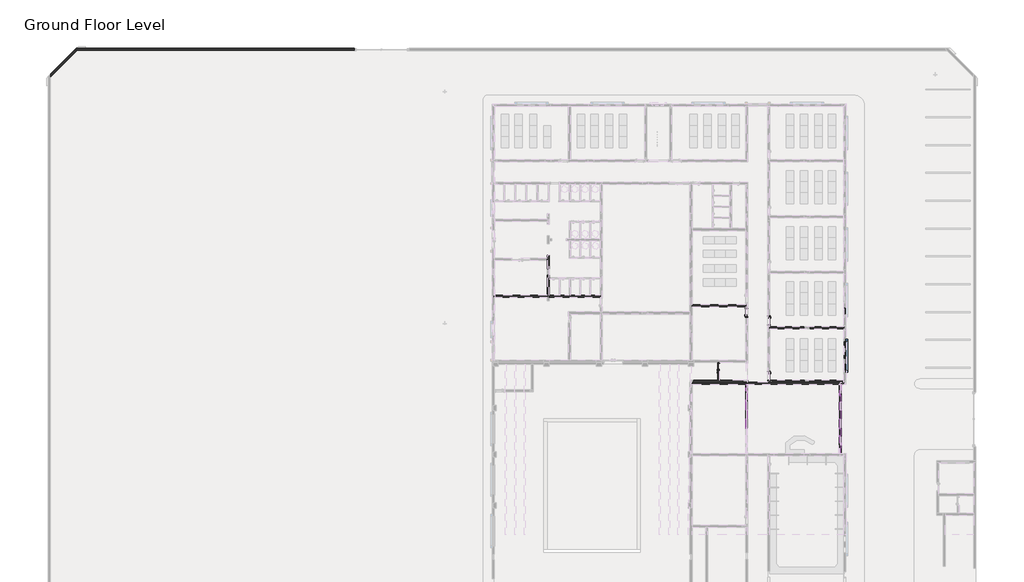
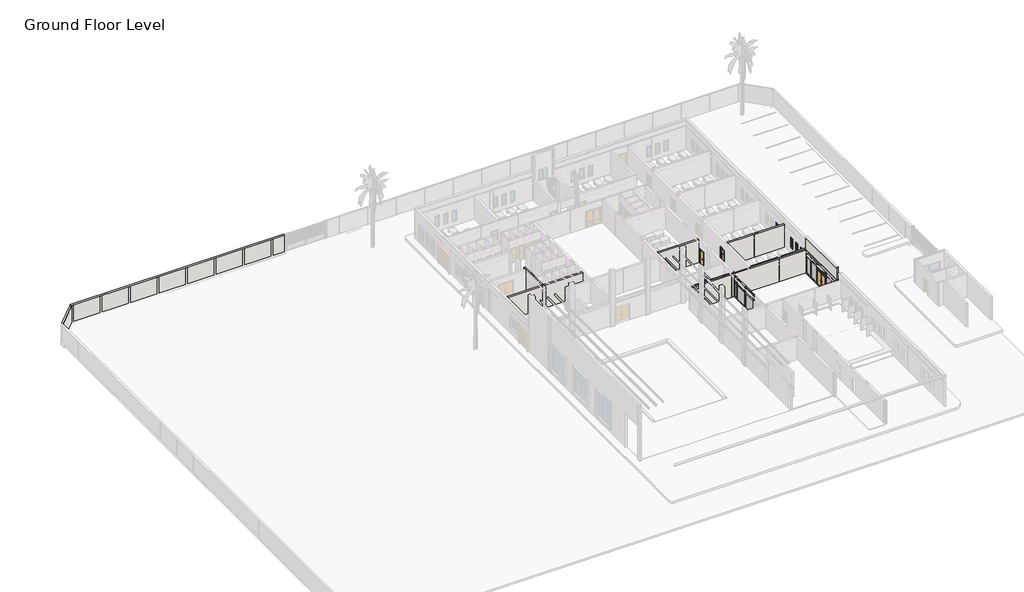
# One storey, part 6 of 23: 44 members, 16 plates, 11 walls, 5 doors, 5 windows.
"""IFC4 building model written with IfcOpenShell, lengths in millimetres."""

from ifc_helpers import new_model, si_unit, frame, origin, place, context, project, spatial, polyline, outline, extrude, faceted_brep, transform, mapped, element, save
from components import int_double_flush_nz_1800_x_2500_136b044d, int_single_flush_nz_900_x_2100_021ef152, m_curtain_wall_dbl_glass_m_curtain_wall_dbl_glass_e02fd95a, rectangular_mullion_50_x_150mm_c0aabc74, rectangular_mullion_50_x_150mm_79b53f25, rectangular_mullion_50_x_150mm_c9e8804c, rectangular_mullion_50_x_150mm_f0154c62, rectangular_mullion_50_x_150mm_3a148f0f, rectangular_mullion_50_x_150mm_5a145be0, rectangular_mullion_50_x_150mm_aa47fe12, rectangular_mullion_50_x_150mm_de483d99, rectangular_mullion_50_x_150mm_ab54daf0, rectangular_mullion_50_x_150mm_3a321350, rectangular_mullion_50_x_150mm_7a83b0e5, rectangular_mullion_50_x_150mm_9cef7b28, rectangular_mullion_50_x_150mm_4d58d98e, rectangular_mullion_50_x_150mm_792551fd, rectangular_mullion_50_x_150mm_23485ade, rectangular_mullion_50_x_150mm_35d6a770, rectangular_mullion_50_x_150mm_3ddb3363, rectangular_mullion_50_x_150mm_64d38db8, rectangular_mullion_50_x_150mm_68b3818a, system_panel_glazed_d0e91aec, system_panel_glazed_3409cc1e, system_panel_glazed_c55c287d, system_panel_glazed_65c4ff5a, system_panel_glazed_45c84e56, system_panel_glazed_78f5b605, system_panel_glazed_9a752446, system_panel_glazed_ebf72a38, system_panel_glazed_8493d7a6, system_panel_glazed_0c7632f4, system_panel_glazed_ec99e3cf, system_panel_glazed_dac4f711, window_batten_type_1_65f01d97, window_single_shutter_w3_b236610e

model = new_model("IFC4")

# Units and contexts
model_context = context("Model", 3, world=origin())
ifc_project = project(units=[si_unit("LENGTHUNIT", "METRE", prefix="MILLI")], contexts=[model_context])

# Site, building, storey
site = spatial("IfcSite", under=ifc_project)
building = spatial("IfcBuilding", under=site)
storey = spatial("IfcBuildingStorey", under=building, Name="Ground Floor Level", Elevation=900.0)

# Doors
placement = place(None, origin())
int_double_flush_nz_1800_x_2500_shape = int_double_flush_nz_1800_x_2500_136b044d(model_context)
element("IfcDoor", 1, ObjectType="Int Double-Flush (NZ) : 1800 x 2500", at=placement, inside=storey, context=model_context, shape_type="MappedRepresentation", body=[
    mapped(int_double_flush_nz_1800_x_2500_shape, transform((2362.7672395, -7149.7846466, 900.0), x_axis=(0.0, 1.0, 0.0), y_axis=(-1.0, 0.0, 0.0), z_axis=(0.0, 0.0, 1.0))),
])
int_single_flush_nz_900_x_2100_shape = int_single_flush_nz_900_x_2100_021ef152(model_context)
element("IfcDoor", 2, ObjectType="Int Single-Flush (NZ) : 900 x 2100", at=placement, inside=storey, context=model_context, shape_type="MappedRepresentation", body=[
    mapped(int_single_flush_nz_900_x_2100_shape, transform((7752.7672395, -1750.7846466, 1000.0), x_axis=(0.0, -1.0, 0.0), y_axis=(1.0, 0.0, 0.0), z_axis=(0.0, 0.0, 1.0))),
])
element("IfcDoor", 3, ObjectType="Int Single-Flush (NZ) : 900 x 2100", at=placement, inside=storey, context=model_context, shape_type="MappedRepresentation", body=[
    mapped(int_single_flush_nz_900_x_2100_shape, transform((7752.7672395, -7730.7846466, 1000.0), x_axis=(0.0, -1.0, 0.0), y_axis=(1.0, 0.0, 0.0), z_axis=(0.0, 0.0, 1.0))),
])
element("IfcDoor", 4, ObjectType="Int Single-Flush (NZ) : 900 x 2100", at=placement, inside=storey, context=model_context, shape_type="MappedRepresentation", body=[
    mapped(int_single_flush_nz_900_x_2100_shape, transform((5352.7672395, -758.7846466, 1000.0), x_axis=(0.0, 1.0, 0.0), y_axis=(-1.0, 0.0, 0.0), z_axis=(0.0, 0.0, 1.0))),
])
m_curtain_wall_dbl_glass_m_curtain_wall_dbl_glass_shape = m_curtain_wall_dbl_glass_m_curtain_wall_dbl_glass_e02fd95a(model_context)
element("IfcDoor", 5, ObjectType="M_Curtain Wall Dbl Glass : M_Curtain Wall Dbl Glass", at=placement, inside=storey, context=model_context, shape_type="MappedRepresentation", body=[
    mapped(m_curtain_wall_dbl_glass_m_curtain_wall_dbl_glass_shape, transform((15452.7672395, -12279.7846466, 1050.0), x_axis=(0.0, -1.0, 0.0), y_axis=(1.0, 0.0, 0.0), z_axis=(0.0, 0.0, 1.0))),
])

# Members
rectangular_mullion_50_x_150mm_shape = rectangular_mullion_50_x_150mm_c0aabc74(model_context)
element("IfcMember", 6, ObjectType="Rectangular Mullion : 50 x 150mm", at=placement, inside=storey, context=model_context, shape_type="MappedRepresentation", body=[
    mapped(rectangular_mullion_50_x_150mm_shape, transform((5352.7672395, -8614.7846466, 1000.0), x_axis=(0.0, 0.0, -1.0), y_axis=(-1.0, 0.0, 0.0), z_axis=(0.0, 1.0, 0.0))),
])
rectangular_mullion_50_x_150mm_2_shape = rectangular_mullion_50_x_150mm_79b53f25(model_context)
element("IfcMember", 7, ObjectType="Rectangular Mullion : 50 x 150mm", at=placement, inside=storey, context=model_context, shape_type="MappedRepresentation", body=[
    mapped(rectangular_mullion_50_x_150mm_2_shape, transform((5352.7672395, -11254.7846466, 1000.0), x_axis=(0.0, -1.0, 0.0), y_axis=(-1.0, 0.0, 0.0), z_axis=(0.0, 0.0, -1.0))),
])
element("IfcMember", 8, ObjectType="Rectangular Mullion : 50 x 150mm", at=placement, inside=storey, context=model_context, shape_type="MappedRepresentation", body=[
    mapped(rectangular_mullion_50_x_150mm_2_shape, transform((5352.7672395, -9204.7846466, 1000.0), x_axis=(0.0, -1.0, 0.0), y_axis=(-1.0, 0.0, 0.0), z_axis=(0.0, 0.0, -1.0))),
])
rectangular_mullion_50_x_150mm_3_shape = rectangular_mullion_50_x_150mm_c9e8804c(model_context)
element("IfcMember", 9, ObjectType="Rectangular Mullion : 50 x 150mm", at=placement, inside=storey, context=model_context, shape_type="MappedRepresentation", body=[
    mapped(rectangular_mullion_50_x_150mm_3_shape, transform((5352.7672395, -9179.7846466, 3250.0), x_axis=(0.0, 0.0, 1.0), y_axis=(-1.0, 0.0, 0.0), z_axis=(0.0, -1.0, 0.0))),
])
rectangular_mullion_50_x_150mm_4_shape = rectangular_mullion_50_x_150mm_f0154c62(model_context)
element("IfcMember", 10, ObjectType="Rectangular Mullion : 50 x 150mm", at=placement, inside=storey, context=model_context, shape_type="MappedRepresentation", body=[
    mapped(rectangular_mullion_50_x_150mm_4_shape, transform((15452.7672395, -14779.7846466, 3550.0), x_axis=(0.0, 0.0, 1.0), y_axis=(-1.0, 0.0, 0.0), z_axis=(0.0, -1.0, 0.0))),
])
element("IfcMember", 11, ObjectType="Rectangular Mullion : 50 x 150mm", at=placement, inside=storey, context=model_context, shape_type="MappedRepresentation", body=[
    mapped(rectangular_mullion_50_x_150mm_4_shape, transform((15452.7672395, -11229.7846466, 3550.0), x_axis=(0.0, 0.0, 1.0), y_axis=(-1.0, 0.0, 0.0), z_axis=(0.0, -1.0, 0.0))),
])
rectangular_mullion_50_x_150mm_5_shape = rectangular_mullion_50_x_150mm_3a148f0f(model_context)
element("IfcMember", 12, ObjectType="Rectangular Mullion : 50 x 150mm", at=placement, inside=storey, context=model_context, shape_type="MappedRepresentation", body=[
    mapped(rectangular_mullion_50_x_150mm_5_shape, transform((5352.7672395, -11229.7846466, 3250.0), x_axis=(0.0, 0.0, 1.0), y_axis=(-1.0, 0.0, 0.0), z_axis=(0.0, -1.0, 0.0))),
])
element("IfcMember", 13, ObjectType="Rectangular Mullion : 50 x 150mm", at=placement, inside=storey, context=model_context, shape_type="MappedRepresentation", body=[
    mapped(rectangular_mullion_50_x_150mm_5_shape, transform((15452.7672395, -13279.7846466, 3200.0), x_axis=(0.0, 0.0, 1.0), y_axis=(-1.0, 0.0, 0.0), z_axis=(0.0, -1.0, 0.0))),
])
element("IfcMember", 14, ObjectType="Rectangular Mullion : 50 x 150mm", at=placement, inside=storey, context=model_context, shape_type="MappedRepresentation", body=[
    mapped(rectangular_mullion_50_x_150mm_5_shape, transform((15452.7672395, -13279.7846466, 3550.0), x_axis=(0.0, 0.0, 1.0), y_axis=(-1.0, 0.0, 0.0), z_axis=(0.0, -1.0, 0.0))),
])
rectangular_mullion_50_x_150mm_6_shape = rectangular_mullion_50_x_150mm_5a145be0(model_context)
element("IfcMember", 15, ObjectType="Rectangular Mullion : 50 x 150mm", at=placement, inside=storey, context=model_context, shape_type="MappedRepresentation", body=[
    mapped(rectangular_mullion_50_x_150mm_6_shape, transform((15452.7672395, -13329.7846466, 1000.0), x_axis=(0.0, 0.0, -1.0), y_axis=(-1.0, 0.0, 0.0), z_axis=(0.0, 1.0, 0.0))),
])
element("IfcMember", 16, ObjectType="Rectangular Mullion : 50 x 150mm", at=placement, inside=storey, context=model_context, shape_type="MappedRepresentation", body=[
    mapped(rectangular_mullion_50_x_150mm_6_shape, transform((15452.7672395, -9779.7846466, 1000.0), x_axis=(0.0, 0.0, -1.0), y_axis=(-1.0, 0.0, 0.0), z_axis=(0.0, 1.0, 0.0))),
])
rectangular_mullion_50_x_150mm_7_shape = rectangular_mullion_50_x_150mm_aa47fe12(model_context)
element("IfcMember", 17, ObjectType="Rectangular Mullion : 50 x 150mm", at=placement, inside=storey, context=model_context, shape_type="MappedRepresentation", body=[
    mapped(rectangular_mullion_50_x_150mm_7_shape, transform((5352.7672395, -11279.7846466, 1000.0), x_axis=(0.0, 0.0, -1.0), y_axis=(-1.0, 0.0, 0.0), z_axis=(0.0, 1.0, 0.0))),
])
element("IfcMember", 18, ObjectType="Rectangular Mullion : 50 x 150mm", at=placement, inside=storey, context=model_context, shape_type="MappedRepresentation", body=[
    mapped(rectangular_mullion_50_x_150mm_7_shape, transform((5352.7672395, -9229.7846466, 1000.0), x_axis=(0.0, 0.0, -1.0), y_axis=(-1.0, 0.0, 0.0), z_axis=(0.0, 1.0, 0.0))),
])
element("IfcMember", 19, ObjectType="Rectangular Mullion : 50 x 150mm", at=placement, inside=storey, context=model_context, shape_type="MappedRepresentation", body=[
    mapped(rectangular_mullion_50_x_150mm_7_shape, transform((15452.7672395, -11279.7846466, 1000.0), x_axis=(0.0, 0.0, -1.0), y_axis=(-1.0, 0.0, 0.0), z_axis=(0.0, 1.0, 0.0))),
])
element("IfcMember", 20, ObjectType="Rectangular Mullion : 50 x 150mm", at=placement, inside=storey, context=model_context, shape_type="MappedRepresentation", body=[
    mapped(rectangular_mullion_50_x_150mm_6_shape, transform((15452.7672395, -14779.7846466, 4150.0), x_axis=(0.0, 0.0, 1.0), y_axis=(-1.0, 0.0, 0.0), z_axis=(0.0, -1.0, 0.0))),
])
element("IfcMember", 21, ObjectType="Rectangular Mullion : 50 x 150mm", at=placement, inside=storey, context=model_context, shape_type="MappedRepresentation", body=[
    mapped(rectangular_mullion_50_x_150mm_6_shape, transform((15452.7672395, -11229.7846466, 4150.0), x_axis=(0.0, 0.0, 1.0), y_axis=(-1.0, 0.0, 0.0), z_axis=(0.0, -1.0, 0.0))),
])
element("IfcMember", 22, ObjectType="Rectangular Mullion : 50 x 150mm", at=placement, inside=storey, context=model_context, shape_type="MappedRepresentation", body=[
    mapped(rectangular_mullion_50_x_150mm_7_shape, transform((5352.7672395, -13279.7846466, 4150.0), x_axis=(0.0, 0.0, 1.0), y_axis=(-1.0, 0.0, 0.0), z_axis=(0.0, -1.0, 0.0))),
])
element("IfcMember", 23, ObjectType="Rectangular Mullion : 50 x 150mm", at=placement, inside=storey, context=model_context, shape_type="MappedRepresentation", body=[
    mapped(rectangular_mullion_50_x_150mm_7_shape, transform((5352.7672395, -11229.7846466, 4150.0), x_axis=(0.0, 0.0, 1.0), y_axis=(-1.0, 0.0, 0.0), z_axis=(0.0, -1.0, 0.0))),
])
element("IfcMember", 24, ObjectType="Rectangular Mullion : 50 x 150mm", at=placement, inside=storey, context=model_context, shape_type="MappedRepresentation", body=[
    mapped(rectangular_mullion_50_x_150mm_7_shape, transform((15452.7672395, -13279.7846466, 4150.0), x_axis=(0.0, 0.0, 1.0), y_axis=(-1.0, 0.0, 0.0), z_axis=(0.0, -1.0, 0.0))),
])
element("IfcMember", 25, ObjectType="Rectangular Mullion : 50 x 150mm", at=placement, inside=storey, context=model_context, shape_type="MappedRepresentation", body=[
    mapped(rectangular_mullion_50_x_150mm_shape, transform((5352.7672395, -9179.7846466, 4150.0), x_axis=(0.0, 0.0, 1.0), y_axis=(-1.0, 0.0, 0.0), z_axis=(0.0, -1.0, 0.0))),
])
rectangular_mullion_50_x_150mm_8_shape = rectangular_mullion_50_x_150mm_de483d99(model_context)
element("IfcMember", 26, ObjectType="Rectangular Mullion : 50 x 150mm", at=placement, inside=storey, context=model_context, shape_type="MappedRepresentation", body=[
    mapped(rectangular_mullion_50_x_150mm_8_shape, transform((5352.7672395, -8564.7846466, 3250.0), x_axis=(0.0, 1.0, 0.0), y_axis=(-1.0, 0.0, 0.0), z_axis=(0.0, 0.0, 1.0))),
])
rectangular_mullion_50_x_150mm_9_shape = rectangular_mullion_50_x_150mm_ab54daf0(model_context)
element("IfcMember", 27, ObjectType="Rectangular Mullion : 50 x 150mm", at=placement, inside=storey, context=model_context, shape_type="MappedRepresentation", body=[
    mapped(rectangular_mullion_50_x_150mm_9_shape, transform((15452.7672395, -8614.7846466, 1000.0), x_axis=(0.0, 0.0, -1.0), y_axis=(-1.0, 0.0, 0.0), z_axis=(0.0, 1.0, 0.0))),
])
rectangular_mullion_50_x_150mm_10_shape = rectangular_mullion_50_x_150mm_3a321350(model_context)
element("IfcMember", 28, ObjectType="Rectangular Mullion : 50 x 150mm", at=placement, inside=storey, context=model_context, shape_type="MappedRepresentation", body=[
    mapped(rectangular_mullion_50_x_150mm_10_shape, transform((15452.7672395, -14829.7846466, 1000.0), x_axis=(0.0, 0.0, -1.0), y_axis=(-1.0, 0.0, 0.0), z_axis=(0.0, 1.0, 0.0))),
])
element("IfcMember", 29, ObjectType="Rectangular Mullion : 50 x 150mm", at=placement, inside=storey, context=model_context, shape_type="MappedRepresentation", body=[
    mapped(rectangular_mullion_50_x_150mm_9_shape, transform((15452.7672395, -9729.7846466, 4150.0), x_axis=(0.0, 0.0, 1.0), y_axis=(-1.0, 0.0, 0.0), z_axis=(0.0, -1.0, 0.0))),
])
rectangular_mullion_50_x_150mm_11_shape = rectangular_mullion_50_x_150mm_7a83b0e5(model_context)
element("IfcMember", 30, ObjectType="Rectangular Mullion : 50 x 150mm", at=placement, inside=storey, context=model_context, shape_type="MappedRepresentation", body=[
    mapped(rectangular_mullion_50_x_150mm_11_shape, transform((15452.7672395, -14804.7846466, 3200.0), x_axis=(0.0, -1.0, 0.0), y_axis=(-1.0, 0.0, 0.0), z_axis=(0.0, 0.0, -1.0))),
])
element("IfcMember", 31, ObjectType="Rectangular Mullion : 50 x 150mm", at=placement, inside=storey, context=model_context, shape_type="MappedRepresentation", body=[
    mapped(rectangular_mullion_50_x_150mm_11_shape, transform((15452.7672395, -9754.7846466, 3200.0), x_axis=(0.0, -1.0, 0.0), y_axis=(-1.0, 0.0, 0.0), z_axis=(0.0, 0.0, -1.0))),
])
element("IfcMember", 32, ObjectType="Rectangular Mullion : 50 x 150mm", at=placement, inside=storey, context=model_context, shape_type="MappedRepresentation", body=[
    mapped(rectangular_mullion_50_x_150mm_11_shape, transform((15452.7672395, -13304.7846466, 3200.0), x_axis=(0.0, -1.0, 0.0), y_axis=(-1.0, 0.0, 0.0), z_axis=(0.0, 0.0, -1.0))),
])
element("IfcMember", 33, ObjectType="Rectangular Mullion : 50 x 150mm", at=placement, inside=storey, context=model_context, shape_type="MappedRepresentation", body=[
    mapped(rectangular_mullion_50_x_150mm_11_shape, transform((15452.7672395, -11254.7846466, 3200.0), x_axis=(0.0, -1.0, 0.0), y_axis=(-1.0, 0.0, 0.0), z_axis=(0.0, 0.0, -1.0))),
])
rectangular_mullion_50_x_150mm_12_shape = rectangular_mullion_50_x_150mm_9cef7b28(model_context)
element("IfcMember", 34, ObjectType="Rectangular Mullion : 50 x 150mm", at=placement, inside=storey, context=model_context, shape_type="MappedRepresentation", body=[
    mapped(rectangular_mullion_50_x_150mm_12_shape, transform((15452.7672395, -14804.7846466, 1000.0), x_axis=(0.0, -1.0, 0.0), y_axis=(-1.0, 0.0, 0.0), z_axis=(0.0, 0.0, -1.0))),
])
element("IfcMember", 35, ObjectType="Rectangular Mullion : 50 x 150mm", at=placement, inside=storey, context=model_context, shape_type="MappedRepresentation", body=[
    mapped(rectangular_mullion_50_x_150mm_12_shape, transform((15452.7672395, -9754.7846466, 1000.0), x_axis=(0.0, -1.0, 0.0), y_axis=(-1.0, 0.0, 0.0), z_axis=(0.0, 0.0, -1.0))),
])
element("IfcMember", 36, ObjectType="Rectangular Mullion : 50 x 150mm", at=placement, inside=storey, context=model_context, shape_type="MappedRepresentation", body=[
    mapped(rectangular_mullion_50_x_150mm_12_shape, transform((15452.7672395, -13304.7846466, 1000.0), x_axis=(0.0, -1.0, 0.0), y_axis=(-1.0, 0.0, 0.0), z_axis=(0.0, 0.0, -1.0))),
])
element("IfcMember", 37, ObjectType="Rectangular Mullion : 50 x 150mm", at=placement, inside=storey, context=model_context, shape_type="MappedRepresentation", body=[
    mapped(rectangular_mullion_50_x_150mm_12_shape, transform((15452.7672395, -11254.7846466, 1000.0), x_axis=(0.0, -1.0, 0.0), y_axis=(-1.0, 0.0, 0.0), z_axis=(0.0, 0.0, -1.0))),
])
rectangular_mullion_50_x_150mm_13_shape = rectangular_mullion_50_x_150mm_4d58d98e(model_context)
element("IfcMember", 38, ObjectType="Rectangular Mullion : 50 x 150mm", at=placement, inside=storey, context=model_context, shape_type="MappedRepresentation", body=[
    mapped(rectangular_mullion_50_x_150mm_13_shape, transform((15452.7672395, -9729.7846466, 3550.0), x_axis=(0.0, 0.0, 1.0), y_axis=(-1.0, 0.0, 0.0), z_axis=(0.0, -1.0, 0.0))),
])
rectangular_mullion_50_x_150mm_14_shape = rectangular_mullion_50_x_150mm_792551fd(model_context)
element("IfcMember", 39, ObjectType="Rectangular Mullion : 50 x 150mm", at=placement, inside=storey, context=model_context, shape_type="MappedRepresentation", body=[
    mapped(rectangular_mullion_50_x_150mm_14_shape, transform((15452.7672395, -8564.7846466, 3200.0), x_axis=(0.0, 1.0, 0.0), y_axis=(-1.0, 0.0, 0.0), z_axis=(0.0, 0.0, 1.0))),
])
rectangular_mullion_50_x_150mm_15_shape = rectangular_mullion_50_x_150mm_23485ade(model_context)
element("IfcMember", 40, ObjectType="Rectangular Mullion : 50 x 150mm", at=placement, inside=storey, context=model_context, shape_type="MappedRepresentation", body=[
    mapped(rectangular_mullion_50_x_150mm_15_shape, transform((15452.7672395, -8564.7846466, 3550.0), x_axis=(0.0, 1.0, 0.0), y_axis=(-1.0, 0.0, 0.0), z_axis=(0.0, 0.0, 1.0))),
])
rectangular_mullion_50_x_150mm_16_shape = rectangular_mullion_50_x_150mm_35d6a770(model_context)
element("IfcMember", 41, ObjectType="Rectangular Mullion : 50 x 150mm", at=placement, inside=storey, context=model_context, shape_type="MappedRepresentation", body=[
    mapped(rectangular_mullion_50_x_150mm_16_shape, transform((5352.7672395, -8564.7846466, 4150.0), x_axis=(0.0, 1.0, 0.0), y_axis=(-1.0, 0.0, 0.0), z_axis=(0.0, 0.0, 1.0))),
])
rectangular_mullion_50_x_150mm_17_shape = rectangular_mullion_50_x_150mm_3ddb3363(model_context)
element("IfcMember", 42, ObjectType="Rectangular Mullion : 50 x 150mm", at=placement, inside=storey, context=model_context, shape_type="MappedRepresentation", body=[
    mapped(rectangular_mullion_50_x_150mm_17_shape, transform((5352.7672395, -13304.7846466, 3250.0), x_axis=(0.0, -1.0, 0.0), y_axis=(-1.0, 0.0, 0.0), z_axis=(0.0, 0.0, -1.0))),
])
element("IfcMember", 43, ObjectType="Rectangular Mullion : 50 x 150mm", at=placement, inside=storey, context=model_context, shape_type="MappedRepresentation", body=[
    mapped(rectangular_mullion_50_x_150mm_17_shape, transform((5352.7672395, -11254.7846466, 3250.0), x_axis=(0.0, -1.0, 0.0), y_axis=(-1.0, 0.0, 0.0), z_axis=(0.0, 0.0, -1.0))),
])
element("IfcMember", 44, ObjectType="Rectangular Mullion : 50 x 150mm", at=placement, inside=storey, context=model_context, shape_type="MappedRepresentation", body=[
    mapped(rectangular_mullion_50_x_150mm_17_shape, transform((5352.7672395, -9204.7846466, 3250.0), x_axis=(0.0, -1.0, 0.0), y_axis=(-1.0, 0.0, 0.0), z_axis=(0.0, 0.0, -1.0))),
])
rectangular_mullion_50_x_150mm_18_shape = rectangular_mullion_50_x_150mm_64d38db8(model_context)
element("IfcMember", 45, ObjectType="Rectangular Mullion : 50 x 150mm", at=placement, inside=storey, context=model_context, shape_type="MappedRepresentation", body=[
    mapped(rectangular_mullion_50_x_150mm_18_shape, transform((15452.7672395, -8564.7846466, 4150.0), x_axis=(0.0, 1.0, 0.0), y_axis=(-1.0, 0.0, 0.0), z_axis=(0.0, 0.0, 1.0))),
])
rectangular_mullion_50_x_150mm_19_shape = rectangular_mullion_50_x_150mm_68b3818a(model_context)
element("IfcMember", 46, ObjectType="Rectangular Mullion : 50 x 150mm", at=placement, inside=storey, context=model_context, shape_type="MappedRepresentation", body=[
    mapped(rectangular_mullion_50_x_150mm_19_shape, transform((15452.7672395, -14804.7846466, 3550.0), x_axis=(0.0, -1.0, 0.0), y_axis=(-1.0, 0.0, 0.0), z_axis=(0.0, 0.0, -1.0))),
])
element("IfcMember", 47, ObjectType="Rectangular Mullion : 50 x 150mm", at=placement, inside=storey, context=model_context, shape_type="MappedRepresentation", body=[
    mapped(rectangular_mullion_50_x_150mm_19_shape, transform((15452.7672395, -13304.7846466, 3550.0), x_axis=(0.0, -1.0, 0.0), y_axis=(-1.0, 0.0, 0.0), z_axis=(0.0, 0.0, -1.0))),
])
element("IfcMember", 48, ObjectType="Rectangular Mullion : 50 x 150mm", at=placement, inside=storey, context=model_context, shape_type="MappedRepresentation", body=[
    mapped(rectangular_mullion_50_x_150mm_19_shape, transform((15452.7672395, -11254.7846466, 3550.0), x_axis=(0.0, -1.0, 0.0), y_axis=(-1.0, 0.0, 0.0), z_axis=(0.0, 0.0, -1.0))),
])
element("IfcMember", 49, ObjectType="Rectangular Mullion : 50 x 150mm", at=placement, inside=storey, context=model_context, shape_type="MappedRepresentation", body=[
    mapped(rectangular_mullion_50_x_150mm_19_shape, transform((15452.7672395, -9754.7846466, 3550.0), x_axis=(0.0, -1.0, 0.0), y_axis=(-1.0, 0.0, 0.0), z_axis=(0.0, 0.0, -1.0))),
])

# Plates
system_panel_glazed_shape = system_panel_glazed_d0e91aec(model_context)
element("IfcPlate", 50, ObjectType="System Panel : Glazed", at=placement, inside=storey, context=model_context, shape_type="MappedRepresentation", body=[
    mapped(system_panel_glazed_shape, transform((5352.7672395, -8897.2846466, 1050.0), x_axis=(0.0, -1.0, 0.0), y_axis=(1.0, 0.0, 0.0), z_axis=(0.0, 0.0, 1.0))),
])
system_panel_glazed_2_shape = system_panel_glazed_3409cc1e(model_context)
element("IfcPlate", 51, ObjectType="System Panel : Glazed", at=placement, inside=storey, context=model_context, shape_type="MappedRepresentation", body=[
    mapped(system_panel_glazed_2_shape, transform((5352.7672395, -12279.7846466, 1050.0), x_axis=(0.0, -1.0, 0.0), y_axis=(1.0, 0.0, 0.0), z_axis=(0.0, 0.0, 1.0))),
])
element("IfcPlate", 52, ObjectType="System Panel : Glazed", at=placement, inside=storey, context=model_context, shape_type="MappedRepresentation", body=[
    mapped(system_panel_glazed_2_shape, transform((5352.7672395, -10229.7846466, 1050.0), x_axis=(0.0, -1.0, 0.0), y_axis=(1.0, 0.0, 0.0), z_axis=(0.0, 0.0, 1.0))),
])
system_panel_glazed_3_shape = system_panel_glazed_c55c287d(model_context)
element("IfcPlate", 53, ObjectType="System Panel : Glazed", at=placement, inside=storey, context=model_context, shape_type="MappedRepresentation", body=[
    mapped(system_panel_glazed_3_shape, transform((15452.7672395, -9172.2846466, 1050.0), x_axis=(0.0, -1.0, 0.0), y_axis=(1.0, 0.0, 0.0), z_axis=(0.0, 0.0, 1.0))),
])
system_panel_glazed_4_shape = system_panel_glazed_65c4ff5a(model_context)
element("IfcPlate", 54, ObjectType="System Panel : Glazed", at=placement, inside=storey, context=model_context, shape_type="MappedRepresentation", body=[
    mapped(system_panel_glazed_4_shape, transform((15452.7672395, -15417.2846466, 1050.0), x_axis=(0.0, -1.0, 0.0), y_axis=(1.0, 0.0, 0.0), z_axis=(0.0, 0.0, 1.0))),
])
system_panel_glazed_5_shape = system_panel_glazed_45c84e56(model_context)
element("IfcPlate", 55, ObjectType="System Panel : Glazed", at=placement, inside=storey, context=model_context, shape_type="MappedRepresentation", body=[
    mapped(system_panel_glazed_5_shape, transform((15452.7672395, -14054.7846466, 1050.0), x_axis=(0.0, -1.0, 0.0), y_axis=(1.0, 0.0, 0.0), z_axis=(0.0, 0.0, 1.0))),
])
element("IfcPlate", 56, ObjectType="System Panel : Glazed", at=placement, inside=storey, context=model_context, shape_type="MappedRepresentation", body=[
    mapped(system_panel_glazed_5_shape, transform((15452.7672395, -10504.7846466, 1050.0), x_axis=(0.0, -1.0, 0.0), y_axis=(1.0, 0.0, 0.0), z_axis=(0.0, 0.0, 1.0))),
])
system_panel_glazed_6_shape = system_panel_glazed_78f5b605(model_context)
element("IfcPlate", 57, ObjectType="System Panel : Glazed", at=placement, inside=storey, context=model_context, shape_type="MappedRepresentation", body=[
    mapped(system_panel_glazed_6_shape, transform((15452.7672395, -12279.7846466, 3225.0), x_axis=(0.0, -1.0, 0.0), y_axis=(1.0, 0.0, 0.0), z_axis=(0.0, 0.0, 1.0))),
])
system_panel_glazed_7_shape = system_panel_glazed_9a752446(model_context)
element("IfcPlate", 58, ObjectType="System Panel : Glazed", at=placement, inside=storey, context=model_context, shape_type="MappedRepresentation", body=[
    mapped(system_panel_glazed_7_shape, transform((5352.7672395, -8897.2846466, 3275.0), x_axis=(0.0, -1.0, 0.0), y_axis=(1.0, 0.0, 0.0), z_axis=(0.0, 0.0, 1.0))),
])
system_panel_glazed_8_shape = system_panel_glazed_ebf72a38(model_context)
element("IfcPlate", 59, ObjectType="System Panel : Glazed", at=placement, inside=storey, context=model_context, shape_type="MappedRepresentation", body=[
    mapped(system_panel_glazed_8_shape, transform((5352.7672395, -10229.7846466, 3275.0), x_axis=(0.0, -1.0, 0.0), y_axis=(1.0, 0.0, 0.0), z_axis=(0.0, 0.0, 1.0))),
])
element("IfcPlate", 60, ObjectType="System Panel : Glazed", at=placement, inside=storey, context=model_context, shape_type="MappedRepresentation", body=[
    mapped(system_panel_glazed_8_shape, transform((5352.7672395, -12279.7846466, 3275.0), x_axis=(0.0, -1.0, 0.0), y_axis=(1.0, 0.0, 0.0), z_axis=(0.0, 0.0, 1.0))),
])
system_panel_glazed_9_shape = system_panel_glazed_8493d7a6(model_context)
element("IfcPlate", 61, ObjectType="System Panel : Glazed", at=placement, inside=storey, context=model_context, shape_type="MappedRepresentation", body=[
    mapped(system_panel_glazed_9_shape, transform((15452.7672395, -9172.2846466, 3575.0), x_axis=(0.0, -1.0, 0.0), y_axis=(1.0, 0.0, 0.0), z_axis=(0.0, 0.0, 1.0))),
])
system_panel_glazed_10_shape = system_panel_glazed_0c7632f4(model_context)
element("IfcPlate", 62, ObjectType="System Panel : Glazed", at=placement, inside=storey, context=model_context, shape_type="MappedRepresentation", body=[
    mapped(system_panel_glazed_10_shape, transform((15452.7672395, -10504.7846466, 3575.0), x_axis=(0.0, -1.0, 0.0), y_axis=(1.0, 0.0, 0.0), z_axis=(0.0, 0.0, 1.0))),
])
element("IfcPlate", 63, ObjectType="System Panel : Glazed", at=placement, inside=storey, context=model_context, shape_type="MappedRepresentation", body=[
    mapped(system_panel_glazed_10_shape, transform((15452.7672395, -14054.7846466, 3575.0), x_axis=(0.0, -1.0, 0.0), y_axis=(1.0, 0.0, 0.0), z_axis=(0.0, 0.0, 1.0))),
])
system_panel_glazed_11_shape = system_panel_glazed_ec99e3cf(model_context)
element("IfcPlate", 64, ObjectType="System Panel : Glazed", at=placement, inside=storey, context=model_context, shape_type="MappedRepresentation", body=[
    mapped(system_panel_glazed_11_shape, transform((15452.7672395, -12279.7846466, 3575.0), x_axis=(0.0, -1.0, 0.0), y_axis=(1.0, 0.0, 0.0), z_axis=(0.0, 0.0, 1.0))),
])
system_panel_glazed_12_shape = system_panel_glazed_dac4f711(model_context)
element("IfcPlate", 65, ObjectType="System Panel : Glazed", at=placement, inside=storey, context=model_context, shape_type="MappedRepresentation", body=[
    mapped(system_panel_glazed_12_shape, transform((15452.7672395, -15417.2846466, 3575.0), x_axis=(0.0, -1.0, 0.0), y_axis=(1.0, 0.0, 0.0), z_axis=(0.0, 0.0, 1.0))),
])

# Walls
element("IfcWall", 66, ObjectType="Exterior - Blockwork 200mm", at=placement, inside=storey, context=model_context, shape_type="Brep", body=[
    faceted_brep([(15562.7672395, -16044.7846466, 900.0), (15562.7672395, -8564.7846466, 900.0), (15562.7672395, -8564.7846466, 1000.0), (15562.7672395, -16044.7846466, 1000.0), (15342.7672395, -8564.7846466, 900.0), (15342.7672395, -16044.7846466, 900.0), (15342.7672395, -16044.7846466, 1000.0), (15342.7672395, -8564.7846466, 1000.0), (15452.7672395, -16044.7846466, 900.0), (15452.7672395, -8564.7846466, 900.0)], [[[0, 1, 2, 3]], [[4, 5, 6, 7]], [[3, 6, 5, 8, 0]], [[7, 2, 1, 9, 4]], [[3, 2, 7, 6]], [[1, 0, 8, 5, 4, 9]]]),
    faceted_brep([(15562.7672395, -8564.7846466, 6301.5214377), (15562.7672395, -16044.7846466, 6301.5214377), (15562.7672395, -16044.7846466, 4150.0), (15562.7672395, -8564.7846466, 4150.0), (15342.7672395, -16044.7846466, 6301.5214377), (15342.7672395, -8564.7846466, 6301.5214377), (15342.7672395, -8564.7846466, 4550.0), (15342.7672395, -16044.7846466, 4550.0), (15342.7672395, -8564.7846466, 4150.0), (15342.7672395, -16044.7846466, 4150.0), (15342.7672395, -16044.7846466, 4400.0), (15342.7672395, -8564.7846466, 4400.0), (15552.7672395, -16044.7846466, 4550.0), (15552.7672395, -16044.7846466, 4400.0), (15552.7672395, -8564.7846466, 4400.0), (15552.7672395, -8564.7846466, 4550.0)], [[[0, 1, 2, 3]], [[4, 5, 6, 7]], [[8, 9, 10, 11]], [[2, 1, 4, 7, 12, 13, 10, 9]], [[0, 3, 8, 11, 14, 15, 6, 5]], [[3, 2, 9, 8]], [[15, 12, 7, 6]], [[12, 15, 14, 13]], [[13, 14, 11, 10]], [[1, 0, 5, 4]]]),
])
element("IfcWall", 67, ObjectType="Exterior - Blockwork 200mm", at=placement, inside=storey, context=model_context, shape_type="Brep", body=[
    faceted_brep([(-67127.2327605, 27465.2153534, 600.0), (-66816.1057768, 27465.2153534, 600.0), (-36947.2327605, 27465.2153534, 600.0), (-36947.2327605, 27465.2153534, 3100.0), (-66816.1057768, 27465.2153534, 3100.0), (-67127.2327605, 27465.2153534, 3100.0), (-66907.2327605, 27685.2153534, 600.0), (-66907.2327605, 27685.2153534, 3100.0), (-36947.2327605, 27685.2153534, 3100.0), (-36947.2327605, 27685.2153534, 600.0)], [[[0, 1, 2, 3, 4, 5]], [[6, 7, 8, 9]], [[2, 1, 0, 6, 9]], [[3, 2, 9, 8]], [[5, 4, 3, 8, 7]], [[0, 5, 7, 6]]]),
])
element("IfcWall", 68, ObjectType="Exterior - Blockwork 200mm", at=placement, inside=storey, context=model_context, shape_type="SweptSolid", body=[
    extrude(outline(polyline([(-66816.1057768, 27465.2153534), (-69727.2327605, 24554.0883697), (-69727.2327605, 24865.2153534), (-67127.2327605, 27465.2153534), (-66816.1057768, 27465.2153534)])), frame((0.0, 0.0, 600.0), z_axis=(0.0, 0.0, 1.0), x_axis=(1.0, 0.0, 0.0)), (0.0, 0.0, 1.0), 2500.0),
])
element("IfcWall", 69, ObjectType="Interior - Blockwork 200", at=placement, inside=storey, context=model_context, shape_type="Brep", body=[
    faceted_brep([(-16157.2327605, 5390.2153534, 900.0), (-16157.2327605, 5055.2153534, 900.0), (-16157.2327605, 4835.2153534, 900.0), (-16157.2327605, 1055.2153534, 900.0), (-16157.2327605, 1055.2153534, 4400.0), (-16157.2327605, 4835.2153534, 4400.0), (-16157.2327605, 5055.2153534, 4400.0), (-16157.2327605, 5390.2153534, 4400.0), (-15937.2327605, 1055.2153534, 900.0), (-15937.2327605, 2825.2153534, 900.0), (-15937.2327605, 2945.2153534, 900.0), (-15937.2327605, 5390.2153534, 900.0), (-15937.2327605, 5390.2153534, 4400.0), (-15937.2327605, 2945.2153534, 4400.0), (-15937.2327605, 2825.2153534, 4400.0), (-15937.2327605, 1055.2153534, 4400.0), (-15947.2327605, 3245.2153534, 900.0), (-15947.2327605, 3845.2153534, 900.0), (-16147.2327605, 3845.2153534, 900.0), (-16147.2327605, 3245.2153534, 900.0), (-15947.2327605, 3245.2153534, 4400.0), (-15947.2327605, 3845.2153534, 4400.0), (-16147.2327605, 3245.2153534, 4400.0), (-16147.2327605, 3845.2153534, 4400.0)], [[[0, 1, 2, 3, 4, 5, 6, 7]], [[8, 9, 10, 11, 12, 13, 14, 15]], [[3, 2, 1, 0, 11, 10, 9, 8], [16, 17, 18, 19]], [[0, 7, 12, 11]], [[4, 3, 8, 15]], [[16, 20, 21, 17]], [[20, 16, 19, 22]], [[22, 19, 18, 23]], [[23, 18, 17, 21]], [[7, 6, 5, 4, 15, 14, 13, 12], [21, 20, 22, 23]]]),
])
element("IfcWall", 70, ObjectType="Interior - Blockwork 200", at=placement, inside=storey, context=model_context, shape_type="Brep", body=[
    faceted_brep([(-10457.2327605, 835.2153534, 4400.0), (-15947.2327605, 835.2153534, 4400.0), (-15947.2327605, 835.2153534, 1000.0), (-10457.2327605, 835.2153534, 1000.0), (-16147.2327605, 835.2153534, 4400.0), (-21837.2327605, 835.2153534, 4400.0), (-21837.2327605, 835.2153534, 1000.0), (-16147.2327605, 835.2153534, 1000.0), (-21837.2327605, 1055.2153534, 4400.0), (-16157.2327605, 1055.2153534, 4400.0), (-15937.2327605, 1055.2153534, 4400.0), (-14857.2327605, 1055.2153534, 4400.0), (-14737.2327605, 1055.2153534, 4400.0), (-13757.2327605, 1055.2153534, 4400.0), (-13637.2327605, 1055.2153534, 4400.0), (-12657.2327605, 1055.2153534, 4400.0), (-12537.2327605, 1055.2153534, 4400.0), (-11557.2327605, 1055.2153534, 4400.0), (-11437.2327605, 1055.2153534, 4400.0), (-10457.2327605, 1055.2153534, 4400.0), (-10457.2327605, 1055.2153534, 1000.0), (-21837.2327605, 1055.2153534, 1000.0), (-10457.2327605, 845.2153534, 1000.0), (-15947.2327605, 1045.2153534, 4400.0), (-15947.2327605, 1045.2153534, 1000.0), (-16147.2327605, 1045.2153534, 4400.0), (-16147.2327605, 1045.2153534, 1000.0)], [[[0, 1, 2, 3]], [[4, 5, 6, 7]], [[8, 9, 10, 11, 12, 13, 14, 15, 16, 17, 18, 19, 20, 21]], [[19, 0, 3, 22, 20]], [[5, 8, 21, 6]], [[1, 23, 24, 2]], [[25, 4, 7, 26]], [[23, 25, 26, 24]], [[0, 19, 18, 17, 16, 15, 14, 13, 12, 11, 10, 9, 8, 5, 4, 25, 23, 1]], [[21, 20, 22, 3, 2, 24, 26, 7, 6]]]),
])
element("IfcWall", 71, ObjectType="Interior - Blockwork 200", at=placement, inside=storey, context=model_context, shape_type="Brep", body=[
    faceted_brep([(15842.7672395, -2344.7846466, 900.0), (7862.7672395, -2344.7846466, 900.0), (7862.7672395, -2344.7846466, 1000.0), (7862.7672395, -2344.7846466, 4400.0), (15842.7672395, -2344.7846466, 4400.0), (15842.7672395, -2344.7846466, 1000.0), (15842.7672395, -2564.7846466, 4400.0), (7862.7672395, -2564.7846466, 4400.0), (7862.7672395, -2564.7846466, 1000.0), (15842.7672395, -2564.7846466, 1000.0), (15842.7672395, -2554.7846466, 900.0), (12152.7672395, -2554.7846466, 900.0), (12152.7672395, -2354.7846466, 900.0), (11552.7672395, -2354.7846466, 900.0), (11552.7672395, -2554.7846466, 900.0), (7862.7672395, -2554.7846466, 900.0), (7862.7672395, -2554.7846466, 1000.0), (15842.7672395, -2554.7846466, 1000.0), (11552.7672395, -2554.7846466, 4400.0), (12152.7672395, -2554.7846466, 4400.0), (12152.7672395, -2554.7846466, 1000.0), (11552.7672395, -2554.7846466, 1000.0), (11552.7672395, -2354.7846466, 4400.0), (12152.7672395, -2354.7846466, 4400.0)], [[[0, 1, 2, 3, 4, 5]], [[6, 7, 8, 9]], [[1, 0, 10, 11, 12, 13, 14, 15]], [[3, 2, 1, 15, 16, 8, 7]], [[0, 5, 4, 6, 9, 17, 10]], [[18, 19, 20, 21]], [[13, 22, 18, 21, 14]], [[22, 13, 12, 23]], [[23, 12, 11, 20, 19]], [[4, 3, 7, 6], [19, 18, 22, 23]], [[16, 21, 20, 17, 9, 8]], [[21, 16, 15, 14]], [[17, 20, 11, 10]]]),
])
element("IfcWall", 72, ObjectType="Interior - Blockwork 200", at=placement, inside=storey, context=model_context, shape_type="Brep", body=[
    faceted_brep([(-537.2327605, -8354.7846466, 900.0), (5462.7672395, -8354.7846466, 900.0), (5462.7672395, -8354.7846466, 4400.0), (-537.2327605, -8354.7846466, 4400.0), (5462.7672395, -8134.7846466, 900.0), (5452.7672395, -8134.7846466, 900.0), (5452.7672395, -8134.7846466, 910.0), (5452.7672395, -8134.7846466, 4400.0), (5462.7672395, -8134.7846466, 4400.0), (5462.7672395, -8134.7846466, 1000.0), (-347.2327605, -8134.7846466, 4400.0), (4952.7672395, -8134.7846466, 4400.0), (4952.7672395, -8134.7846466, 910.0), (-347.2327605, -8134.7846466, 910.0), (-537.2327605, -8344.7846466, 900.0), (-537.2327605, -8334.7846466, 900.0), (-347.2327605, -8334.7846466, 900.0), (-347.2327605, -8144.7846466, 900.0), (4952.7672395, -8144.7846466, 900.0), (4952.7672395, -8334.7846466, 900.0), (5452.7672395, -8334.7846466, 900.0), (5452.7672395, -8144.7846466, 900.0), (5452.7672395, -8334.7846466, 4400.0), (4952.7672395, -8334.7846466, 4400.0), (4952.7672395, -8144.7846466, 910.0), (-347.2327605, -8334.7846466, 4400.0), (-347.2327605, -8144.7846466, 910.0), (-537.2327605, -8334.7846466, 4400.0), (-537.2327605, -8344.7846466, 4400.0)], [[[0, 1, 2, 3]], [[4, 5, 6, 7, 8, 9]], [[10, 11, 12, 13]], [[1, 0, 14, 15, 16, 17, 18, 19, 20, 21, 5, 4]], [[20, 22, 7, 6, 5, 21]], [[22, 20, 19, 23]], [[23, 19, 18, 24, 12, 11]], [[16, 25, 10, 13, 26, 17]], [[25, 16, 15, 27]], [[0, 3, 28, 27, 15, 14]], [[3, 2, 8, 7, 22, 23, 11, 10, 25, 27, 28]], [[24, 26, 13, 12]], [[26, 24, 18, 17]], [[2, 1, 4, 9, 8]]]),
])
element("IfcWall", 73, ObjectType="Interior - Blockwork 200", at=placement, inside=storey, context=model_context, shape_type="SweptSolid", body=[
    extrude(outline(polyline([(-164.7846466, 4400.0), (55.2153534, 4400.0), (55.2153534, 1000.0), (45.2153534, 1000.0), (45.2153534, 900.0), (-154.7846466, 900.0), (-154.7846466, 1000.0), (-164.7846466, 1000.0), (-164.7846466, 4400.0)])), frame((-537.2327605, 0.0, 0.0), z_axis=(1.0, 0.0, 0.0), x_axis=(0.0, 1.0, 0.0)), (0.0, 0.0, 1.0), 5780.0),
])
element("IfcWall", 74, ObjectType="Interior - Blockwork 200", at=placement, inside=storey, context=model_context, shape_type="Brep", body=[
    faceted_brep([(7862.7672395, -8124.7846466, 4400.0), (15842.7672395, -8124.7846466, 4400.0), (15842.7672395, -8124.7846466, 1000.0), (7862.7672395, -8124.7846466, 1000.0), (7862.7672395, -8124.7846466, 3119.0), (7862.7672395, -8344.7846466, 900.0), (15842.7672395, -8344.7846466, 900.0), (15842.7672395, -8344.7846466, 4400.0), (7862.7672395, -8344.7846466, 4400.0), (7862.7672395, -8334.7846466, 900.0), (8152.7672395, -8334.7846466, 900.0), (8152.7672395, -8134.7846466, 900.0), (11602.7672395, -8134.7846466, 900.0), (11602.7672395, -8334.7846466, 900.0), (12102.7672395, -8334.7846466, 900.0), (12102.7672395, -8134.7846466, 900.0), (15652.7672395, -8134.7846466, 900.0), (15652.7672395, -8334.7846466, 900.0), (15842.7672395, -8334.7846466, 900.0), (7862.7672395, -8334.7846466, 4400.0), (7862.7672395, -8134.7846466, 4400.0), (7862.7672395, -8134.7846466, 1000.0), (15842.7672395, -8334.7846466, 4400.0), (15842.7672395, -8134.7846466, 4400.0), (15842.7672395, -8134.7846466, 1000.0), (8152.7672395, -8134.7846466, 4400.0), (8152.7672395, -8134.7846466, 1000.0), (8152.7672395, -8334.7846466, 4400.0), (12102.7672395, -8134.7846466, 4400.0), (11602.7672395, -8134.7846466, 4400.0), (11602.7672395, -8134.7846466, 1000.0), (12102.7672395, -8134.7846466, 1000.0), (12102.7672395, -8334.7846466, 4400.0), (11602.7672395, -8334.7846466, 4400.0), (15652.7672395, -8134.7846466, 4400.0), (15652.7672395, -8134.7846466, 1000.0), (15652.7672395, -8334.7846466, 4400.0)], [[[0, 1, 2, 3, 4]], [[5, 6, 7, 8]], [[6, 5, 9, 10, 11, 12, 13, 14, 15, 16, 17, 18]], [[5, 8, 19, 9]], [[20, 0, 4, 3, 21]], [[7, 6, 18, 22]], [[1, 23, 24, 2]], [[25, 20, 21, 26]], [[10, 27, 25, 26, 11]], [[27, 10, 9, 19]], [[28, 29, 30, 31]], [[14, 32, 28, 31, 15]], [[32, 14, 13, 33]], [[33, 13, 12, 30, 29]], [[23, 34, 35, 24]], [[17, 36, 22, 18]], [[36, 17, 16, 35, 34]], [[1, 0, 20, 25, 27, 19, 8, 7, 22, 36, 34, 23], [29, 28, 32, 33]], [[30, 26, 21, 3, 2, 24, 35, 31]], [[26, 30, 12, 11]], [[31, 35, 16, 15]]]),
])
element("IfcWall", 75, ObjectType="Interior - Blockwork 200", at=placement, inside=storey, context=model_context, shape_type="Brep", body=[
    faceted_brep([(-537.2327605, -8344.7846466, 4400.0), (7642.7672395, -8344.7846466, 4400.0), (7862.7672395, -8344.7846466, 4400.0), (15452.7672395, -8344.7846466, 4400.0), (15842.7672395, -8344.7846466, 4400.0), (15842.7672395, -8344.7846466, 900.0), (7862.7672395, -8344.7846466, 900.0), (7652.7672395, -8344.7846466, 900.0), (7652.7672395, -8344.7846466, 1000.0), (7642.7672395, -8344.7846466, 1000.0), (5452.7672395, -8344.7846466, 1000.0), (5452.7672395, -8344.7846466, 900.0), (-537.2327605, -8344.7846466, 900.0), (15842.7672395, -8564.7846466, 4400.0), (15552.7672395, -8564.7846466, 4400.0), (15342.7672395, -8564.7846466, 4400.0), (-537.2327605, -8564.7846466, 4400.0), (-537.2327605, -8564.7846466, 1000.0), (15452.7672395, -8564.7846466, 1000.0), (15452.7672395, -8564.7846466, 900.0), (15562.7672395, -8564.7846466, 900.0), (15842.7672395, -8564.7846466, 900.0), (15842.7672395, -8354.7846466, 900.0), (15842.7672395, -8554.7846466, 900.0), (15452.7672395, -8554.7846466, 900.0), (-537.2327605, -8554.7846466, 900.0), (-537.2327605, -8354.7846466, 900.0), (5452.7672395, -8354.7846466, 900.0), (7652.7672395, -8354.7846466, 900.0), (-537.2327605, -8354.7846466, 4400.0), (-537.2327605, -8554.7846466, 4400.0), (15842.7672395, -8554.7846466, 4400.0), (15842.7672395, -8354.7846466, 4400.0), (-537.2327605, -8554.7846466, 1000.0), (15452.7672395, -8554.7846466, 1000.0), (7652.7672395, -8354.7846466, 1000.0), (5452.7672395, -8354.7846466, 1000.0)], [[[0, 1, 2, 3, 4, 5, 6, 7, 8, 9, 10, 11, 12]], [[13, 14, 15, 16, 17, 18, 19, 20, 21]], [[5, 22, 23, 21, 20, 19, 24, 25, 26, 12, 11, 27, 28, 7, 6]], [[4, 3, 2, 1, 0, 29, 30, 16, 15, 14, 13, 31, 32]], [[0, 12, 26, 25, 33, 17, 16, 30, 29]], [[5, 4, 32, 31, 13, 21, 23, 22]], [[33, 34, 18, 17]], [[24, 34, 33, 25]], [[34, 24, 19, 18]], [[35, 36, 10, 9, 8]], [[28, 35, 8, 7]], [[36, 35, 28, 27]], [[36, 27, 11, 10]]]),
])
element("IfcWall", 76, ObjectType="Interior - Blockwork 200", at=placement, inside=storey, context=model_context, shape_type="SweptSolid", body=[
    extrude(outline(polyline([(-8134.7846466, 4100.0), (-6164.7846466, 4100.0), (-6164.7846466, 900.0), (-6230.7846466, 900.0), (-6230.7846466, 3419.0), (-8068.7846466, 3419.0), (-8068.7846466, 900.0), (-8134.7846466, 900.0), (-8134.7846466, 4100.0)])), frame((2252.7672395, 0.0, 0.0), z_axis=(1.0, 0.0, 0.0), x_axis=(0.0, 1.0, 0.0)), (0.0, 0.0, 1.0), 220.0),
])

# Windows
window_batten_type_1_shape = window_batten_type_1_65f01d97(model_context)
element("IfcWindow", 77, ObjectType="Window Batten : Type 1", at=placement, inside=storey, context=model_context, shape_type="MappedRepresentation", body=[
    mapped(window_batten_type_1_shape, transform((15952.7672395, -5588.6537548, 984.2726339), x_axis=(0.0, 1.0, 0.0), y_axis=(-1.0, 0.0, 0.0), z_axis=(0.0, 0.0, 1.0))),
])
window_single_shutter_w3_shape = window_single_shutter_w3_b236610e(model_context)
element("IfcWindow", 78, ObjectType="Window- Single Shutter : W3", at=placement, inside=storey, context=model_context, shape_type="MappedRepresentation", body=[
    mapped(window_single_shutter_w3_shape, transform((15947.7672395, -654.7846466, 1000.0), x_axis=(0.0, -1.0, 0.0), y_axis=(1.0, 0.0, 0.0), z_axis=(0.0, 0.0, 1.0))),
])
element("IfcWindow", 79, ObjectType="Window- Single Shutter : W3", at=placement, inside=storey, context=model_context, shape_type="MappedRepresentation", body=[
    mapped(window_single_shutter_w3_shape, transform((15947.7672395, -4244.7846466, 1000.0), x_axis=(0.0, -1.0, 0.0), y_axis=(1.0, 0.0, 0.0), z_axis=(0.0, 0.0, 1.0))),
])
element("IfcWindow", 80, ObjectType="Window- Single Shutter : W3", at=placement, inside=storey, context=model_context, shape_type="MappedRepresentation", body=[
    mapped(window_single_shutter_w3_shape, transform((15947.7672395, -5444.7846466, 1000.0), x_axis=(0.0, -1.0, 0.0), y_axis=(1.0, 0.0, 0.0), z_axis=(0.0, 0.0, 1.0))),
])
element("IfcWindow", 81, ObjectType="Window- Single Shutter : W3", at=placement, inside=storey, context=model_context, shape_type="MappedRepresentation", body=[
    mapped(window_single_shutter_w3_shape, transform((15947.7672395, -6664.7846466, 1000.0), x_axis=(0.0, -1.0, 0.0), y_axis=(1.0, 0.0, 0.0), z_axis=(0.0, 0.0, 1.0))),
])

save(model, "model.ifc")
